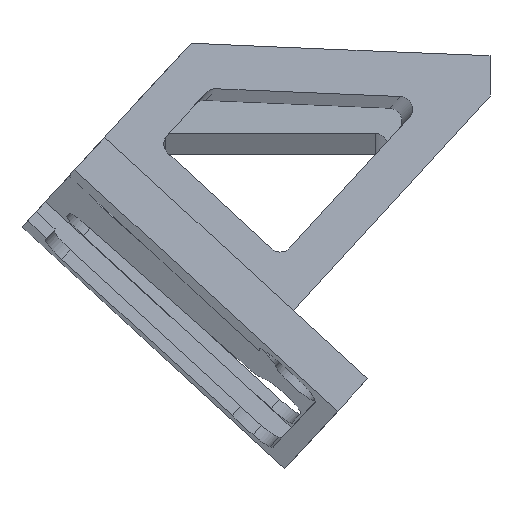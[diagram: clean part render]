
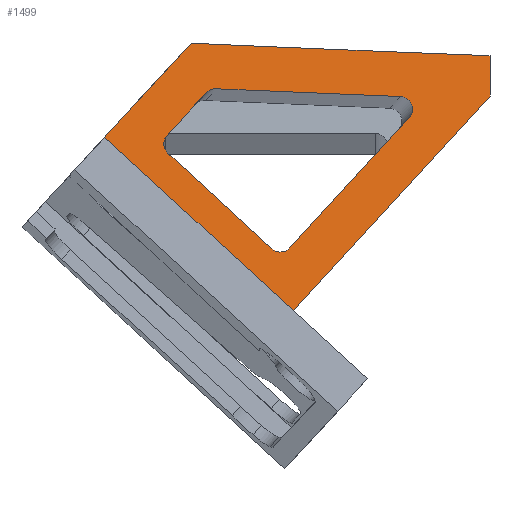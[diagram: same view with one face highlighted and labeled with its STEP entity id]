
A CAD part, left-side view. The second image highlights one B-rep face of the part: STEP entity #1499.
In plain terms, the highlighted planar face has unit normal (-0.99, -0.094, 0.102).
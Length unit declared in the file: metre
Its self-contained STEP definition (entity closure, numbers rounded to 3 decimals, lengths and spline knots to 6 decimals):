
#13=ELLIPSE('',#1637,0.424874,0.04);
#16=B_SPLINE_CURVE_WITH_KNOTS('',3,(#2385,#2386,#2387,#2388),
 .UNSPECIFIED.,.F.,.F.,(4,4),(-0.000005,0.014535),
 .UNSPECIFIED.);
#94=CIRCLE('',#1633,0.001);
#95=CIRCLE('',#1634,0.001);
#96=CIRCLE('',#1635,0.001);
#97=CIRCLE('',#1636,0.001);
#207=ORIENTED_EDGE('',*,*,#665,.T.);
#208=ORIENTED_EDGE('',*,*,#666,.T.);
#209=ORIENTED_EDGE('',*,*,#667,.T.);
#210=ORIENTED_EDGE('',*,*,#668,.T.);
#211=ORIENTED_EDGE('',*,*,#669,.T.);
#212=ORIENTED_EDGE('',*,*,#670,.F.);
#213=ORIENTED_EDGE('',*,*,#671,.T.);
#214=ORIENTED_EDGE('',*,*,#672,.T.);
#215=ORIENTED_EDGE('',*,*,#673,.T.);
#216=ORIENTED_EDGE('',*,*,#674,.F.);
#217=ORIENTED_EDGE('',*,*,#675,.T.);
#218=ORIENTED_EDGE('',*,*,#604,.F.);
#219=ORIENTED_EDGE('',*,*,#676,.F.);
#604=EDGE_CURVE('',#833,#834,#973,.T.);
#665=EDGE_CURVE('',#894,#895,#94,.F.);
#666=EDGE_CURVE('',#895,#896,#1005,.T.);
#667=EDGE_CURVE('',#896,#897,#95,.F.);
#668=EDGE_CURVE('',#897,#898,#1006,.T.);
#669=EDGE_CURVE('',#898,#899,#96,.F.);
#670=EDGE_CURVE('',#900,#899,#1007,.T.);
#671=EDGE_CURVE('',#900,#901,#97,.F.);
#672=EDGE_CURVE('',#901,#894,#16,.T.);
#673=EDGE_CURVE('',#902,#903,#1008,.T.);
#674=EDGE_CURVE('',#904,#903,#13,.T.);
#675=EDGE_CURVE('',#904,#834,#1009,.T.);
#676=EDGE_CURVE('',#902,#833,#1010,.T.);
#833=VERTEX_POINT('',#2243);
#834=VERTEX_POINT('',#2245);
#894=VERTEX_POINT('',#2371);
#895=VERTEX_POINT('',#2372);
#896=VERTEX_POINT('',#2374);
#897=VERTEX_POINT('',#2376);
#898=VERTEX_POINT('',#2378);
#899=VERTEX_POINT('',#2380);
#900=VERTEX_POINT('',#2382);
#901=VERTEX_POINT('',#2384);
#902=VERTEX_POINT('',#2390);
#903=VERTEX_POINT('',#2391);
#904=VERTEX_POINT('',#2393);
#973=LINE('',#2244,#1126);
#1005=LINE('',#2373,#1158);
#1006=LINE('',#2377,#1159);
#1007=LINE('',#2381,#1160);
#1008=LINE('',#2389,#1161);
#1009=LINE('',#2394,#1162);
#1010=LINE('',#2395,#1163);
#1126=VECTOR('',#1776,1.);
#1158=VECTOR('',#1878,1.);
#1159=VECTOR('',#1881,1.);
#1160=VECTOR('',#1884,1.);
#1161=VECTOR('',#1887,1.);
#1162=VECTOR('',#1890,1.);
#1163=VECTOR('',#1891,1.);
#1282=EDGE_LOOP('',(#207,#208,#209,#210,#211,#212,#213,#214));
#1283=EDGE_LOOP('',(#215,#216,#217,#218,#219));
#1373=FACE_BOUND('',#1282,.T.);
#1374=FACE_BOUND('',#1283,.T.);
#1453=PLANE('',#1632);
#1499=ADVANCED_FACE('',(#1373,#1374),#1453,.F.);
#1632=AXIS2_PLACEMENT_3D('',#2369,#1874,#1875);
#1633=AXIS2_PLACEMENT_3D('',#2370,#1876,#1877);
#1634=AXIS2_PLACEMENT_3D('',#2375,#1879,#1880);
#1635=AXIS2_PLACEMENT_3D('',#2379,#1882,#1883);
#1636=AXIS2_PLACEMENT_3D('',#2383,#1885,#1886);
#1637=AXIS2_PLACEMENT_3D('',#2392,#1888,#1889);
#1776=DIRECTION('',(0.,0.736,0.676));
#1874=DIRECTION('',(0.99,0.094,-0.102));
#1875=DIRECTION('',(0.103,0.,0.995));
#1876=DIRECTION('',(-0.99,-0.094,0.102));
#1877=DIRECTION('',(0.103,0.,0.995));
#1878=DIRECTION('',(-0.139,0.67,-0.729));
#1879=DIRECTION('',(-0.99,-0.094,0.102));
#1880=DIRECTION('',(0.103,0.,0.995));
#1881=DIRECTION('',(0.,0.736,0.676));
#1882=DIRECTION('',(-0.99,-0.094,0.102));
#1883=DIRECTION('',(0.103,0.,0.995));
#1884=DIRECTION('',(-0.139,0.67,-0.729));
#1885=DIRECTION('',(-0.99,-0.094,0.102));
#1886=DIRECTION('',(0.103,0.,0.995));
#1887=DIRECTION('',(0.103,0.,0.995));
#1888=DIRECTION('',(-0.99,-0.094,0.102));
#1889=DIRECTION('',(-0.094,0.996,0.01));
#1890=DIRECTION('',(-0.139,0.67,-0.729));
#1891=DIRECTION('',(-0.139,0.67,-0.729));
#2243=CARTESIAN_POINT('',(-0.061771,-0.013858,-0.057505));
#2244=CARTESIAN_POINT('',(-0.061771,-0.006468,-0.050717));
#2245=CARTESIAN_POINT('',(-0.061771,0.000923,-0.043928));
#2369=CARTESIAN_POINT('',(-0.04292,-0.097205,0.04807));
#2370=CARTESIAN_POINT('',(-0.059196,-0.022938,-0.040968));
#2371=CARTESIAN_POINT('',(-0.05909,-0.022968,-0.039974));
#2372=CARTESIAN_POINT('',(-0.059196,-0.023674,-0.041645));
#2373=CARTESIAN_POINT('',(-0.04292,-0.102018,0.043649));
#2374=CARTESIAN_POINT('',(-0.061145,-0.014295,-0.051856));
#2375=CARTESIAN_POINT('',(-0.061145,-0.013559,-0.051179));
#2376=CARTESIAN_POINT('',(-0.061284,-0.012889,-0.051909));
#2377=CARTESIAN_POINT('',(-0.061284,-0.008812,-0.048164));
#2378=CARTESIAN_POINT('',(-0.061284,-0.004735,-0.04442));
#2379=CARTESIAN_POINT('',(-0.061145,-0.005405,-0.04369));
#2380=CARTESIAN_POINT('',(-0.061145,-0.004669,-0.043014));
#2381=CARTESIAN_POINT('',(-0.04292,-0.092392,0.052491));
#2382=CARTESIAN_POINT('',(-0.060509,-0.00773,-0.039681));
#2383=CARTESIAN_POINT('',(-0.060509,-0.008467,-0.040357));
#2384=CARTESIAN_POINT('',(-0.060403,-0.008501,-0.039364));
#2385=CARTESIAN_POINT('',(-0.060403,-0.008501,-0.039364));
#2386=CARTESIAN_POINT('',(-0.059966,-0.013323,-0.039576));
#2387=CARTESIAN_POINT('',(-0.059529,-0.018146,-0.03978));
#2388=CARTESIAN_POINT('',(-0.05909,-0.022968,-0.039974));
#2389=CARTESIAN_POINT('',(-0.049241,-0.03,0.048724));
#2390=CARTESIAN_POINT('',(-0.058418,-0.03,-0.039932));
#2391=CARTESIAN_POINT('',(-0.05809,-0.03,-0.036769));
#2392=CARTESIAN_POINT('',(-0.0425,-0.153879,0.000068));
#2393=CARTESIAN_POINT('',(-0.060219,-0.006549,-0.035793));
#2394=CARTESIAN_POINT('',(-0.04292,-0.089814,0.054859));
#2395=CARTESIAN_POINT('',(-0.04292,-0.104596,0.041281));
